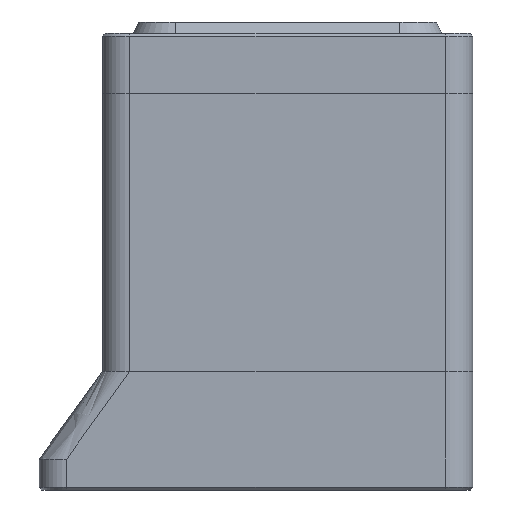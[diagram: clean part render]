
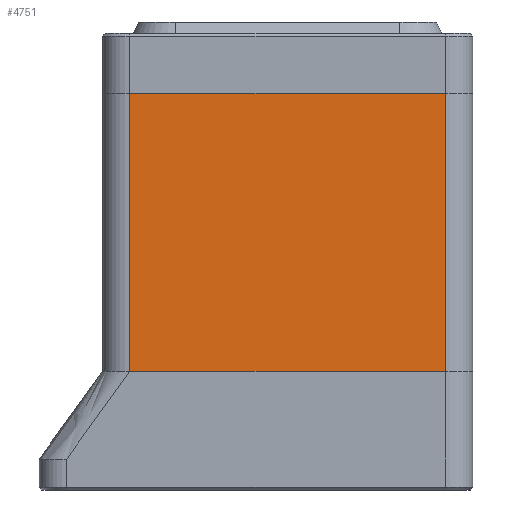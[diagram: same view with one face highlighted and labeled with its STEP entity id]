
A CAD part, front view. The second image highlights one B-rep face of the part: STEP entity #4751.
In plain terms, the highlighted planar face has unit normal (0, -1, 0).
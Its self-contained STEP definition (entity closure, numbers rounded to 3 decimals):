
#322=FACE_OUTER_BOUND('',#595,.T.);
#595=EDGE_LOOP('',(#3172,#3173,#3174,#3175));
#904=LINE('',#6622,#1351);
#909=LINE('',#6642,#1356);
#911=LINE('',#6648,#1358);
#912=LINE('',#6649,#1359);
#1351=VECTOR('',#5549,10.);
#1356=VECTOR('',#5566,10.);
#1358=VECTOR('',#5572,10.);
#1359=VECTOR('',#5573,10.);
#1915=VERTEX_POINT('',#6619);
#1916=VERTEX_POINT('',#6621);
#1925=VERTEX_POINT('',#6641);
#1927=VERTEX_POINT('',#6647);
#2387=EDGE_CURVE('',#1915,#1916,#904,.T.);
#2397=EDGE_CURVE('',#1916,#1925,#909,.T.);
#2400=EDGE_CURVE('',#1927,#1915,#911,.T.);
#2401=EDGE_CURVE('',#1925,#1927,#912,.T.);
#3172=ORIENTED_EDGE('',*,*,#2400,.F.);
#3173=ORIENTED_EDGE('',*,*,#2401,.F.);
#3174=ORIENTED_EDGE('',*,*,#2397,.F.);
#3175=ORIENTED_EDGE('',*,*,#2387,.F.);
#4318=PLANE('',#5086);
#4751=ADVANCED_FACE('',(#322),#4318,.T.);
#5086=AXIS2_PLACEMENT_3D('',#6646,#5570,#5571);
#5549=DIRECTION('',(1.,0.,0.));
#5566=DIRECTION('',(0.,0.,-1.));
#5570=DIRECTION('center_axis',(0.,-1.,0.));
#5571=DIRECTION('ref_axis',(1.,0.,0.));
#5572=DIRECTION('',(0.,0.,1.));
#5573=DIRECTION('',(-1.,0.,0.));
#6619=CARTESIAN_POINT('',(140.75,229.599,-109.56));
#6621=CARTESIAN_POINT('',(185.75,229.599,-109.56));
#6622=CARTESIAN_POINT('',(140.75,229.599,-109.56));
#6641=CARTESIAN_POINT('',(185.75,229.599,-149.199));
#6642=CARTESIAN_POINT('',(185.75,229.599,-201.199));
#6646=CARTESIAN_POINT('Origin',(136.85,229.599,-201.199));
#6647=CARTESIAN_POINT('',(140.75,229.599,-149.199));
#6648=CARTESIAN_POINT('',(140.75,229.599,-124.76));
#6649=CARTESIAN_POINT('',(150.05,229.599,-149.199));
